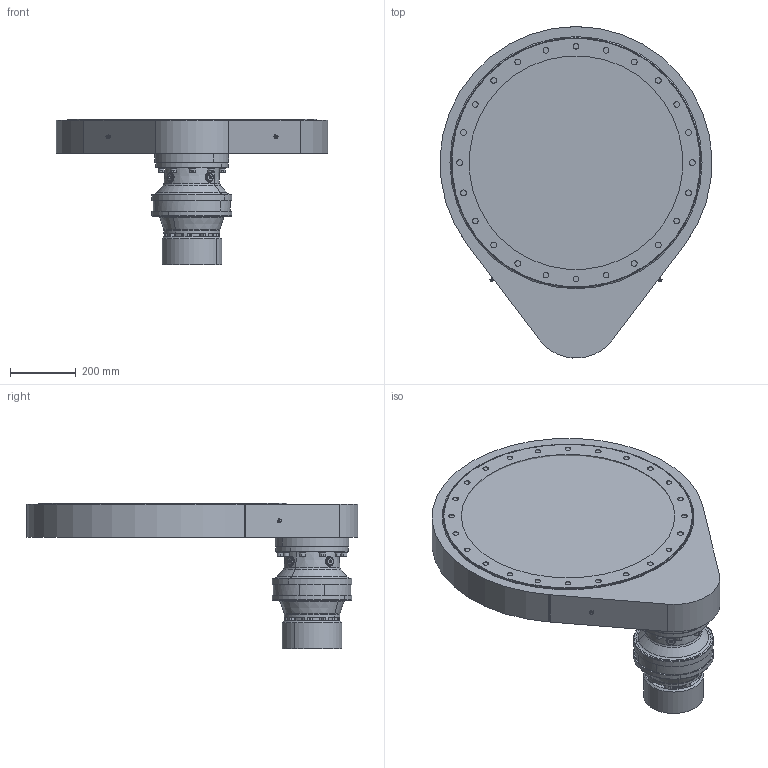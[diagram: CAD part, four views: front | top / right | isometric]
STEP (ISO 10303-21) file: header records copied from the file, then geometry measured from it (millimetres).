
FILE_DESCRIPTION((''),'2;1');
FILE_NAME('RGS20650_CUS','2025-04-09T13:05:10',('cobklu0'),('LIEBHERR'),'CREO PARAMETRIC BY PTC INC, 2024133','CREO PARAMETRIC BY PTC INC, 2024133','');
FILE_SCHEMA(('AP242_MANAGED_MODEL_BASED_3D_ENGINEERING_MIM_LF { 1 0 10303 442 1 1 4 }'));
Products named in the file (1): RGS20650_CUS
Bounding box: 829.38 x 1012.51 x 445 mm (x, y, z)
Volume: 44199994.9 mm3; surface area: 1748820.9 mm2
Topology: 1 solids, 2 shells, 1270 faces, 3117 edges, 1966 vertices
Faces by surface type: cylinder 538, plane 421, cone 241, torus 70
Entity records: 57801 total; most frequent: CARTESIAN_POINT 9964, DIRECTION 6288, ORIENTED_EDGE 6062, PRESENTATION_STYLE_ASSIGNMENT 4302, STYLED_ITEM 3032, CURVE_STYLE 3031, EDGE_CURVE 3031, AXIS2_PLACEMENT_3D 2530
